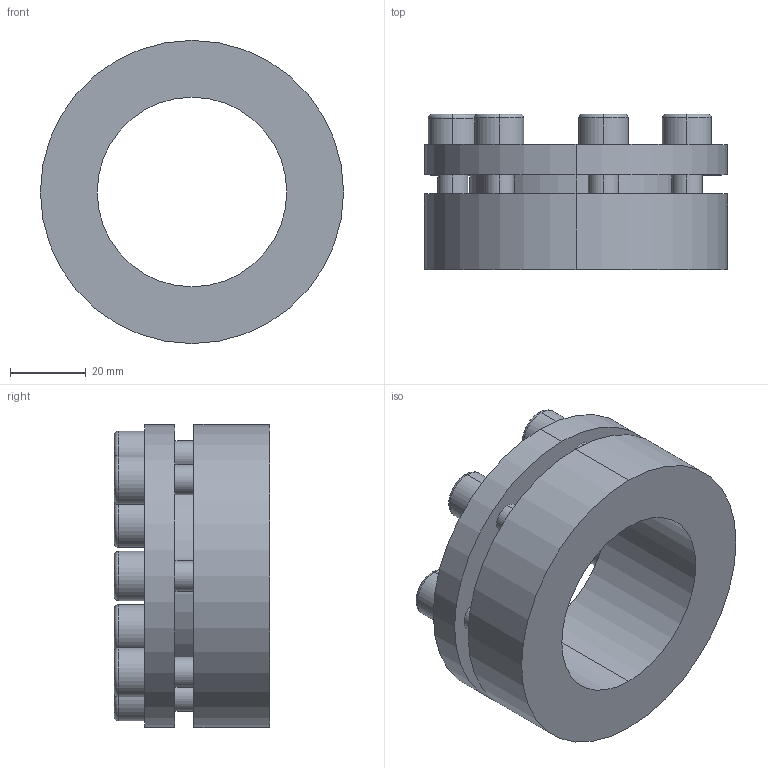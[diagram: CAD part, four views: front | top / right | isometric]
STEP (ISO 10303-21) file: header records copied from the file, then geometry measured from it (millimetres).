
FILE_DESCRIPTION (( 'STEP AP203' ), '1' );
FILE_NAME ('PL-H3 50-80.STEP', '2021-10-23T01:08:17', ( '' ), ( '' ), 'SwSTEP 2.0', 'SolidWorks 2018', '' );
FILE_SCHEMA (( 'CONFIG_CONTROL_DESIGN' ));
Length unit declared in the file: millimetre
Products named in the file (1): PL-H3 50-80
Bounding box: 80 x 41 x 80 mm (x, y, z)
Volume: 96523.1 mm3; surface area: 27272.8 mm2
Topology: 1 solids, 1 shells, 110 faces, 262 edges, 170 vertices
Faces by surface type: plane 60, cylinder 36, torus 14
Entity records: 3303 total; most frequent: DIRECTION 584, CARTESIAN_POINT 543, ORIENTED_EDGE 524, EDGE_CURVE 262, AXIS2_PLACEMENT_3D 211, VERTEX_POINT 170, LINE 162, VECTOR 162
